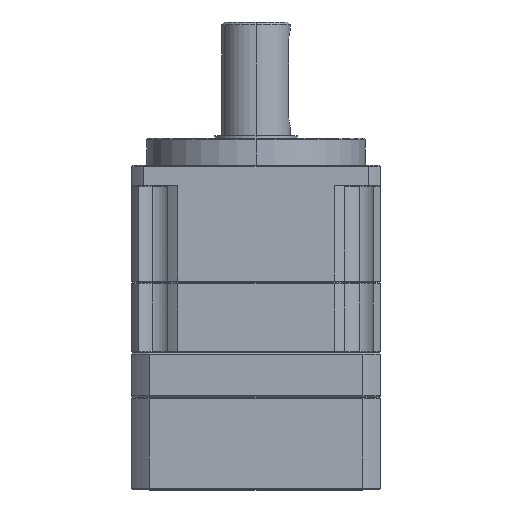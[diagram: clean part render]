
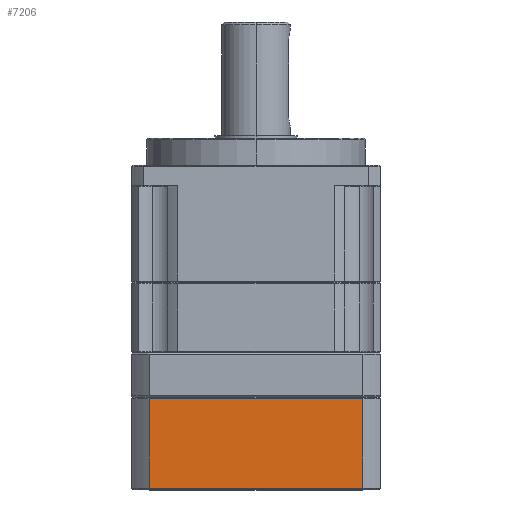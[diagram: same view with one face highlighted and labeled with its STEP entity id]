
A CAD part, top view. The second image highlights one B-rep face of the part: STEP entity #7206.
In plain terms, the highlighted planar face has unit normal (0, 0, 1).
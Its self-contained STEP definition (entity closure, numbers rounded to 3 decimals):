
#123 = FACE_OUTER_BOUND ( 'NONE', #5000, .T. ) ;
#259 = CARTESIAN_POINT ( 'NONE',  ( -78.224, -184., 91. ) ) ;
#260 = DIRECTION ( 'NONE',  ( 0., 1., 0. ) ) ;
#261 = CARTESIAN_POINT ( 'NONE',  ( 78.224, -150.5, 91. ) ) ;
#262 = DIRECTION ( 'NONE',  ( 1., 0., 0. ) ) ;
#263 = DIRECTION ( 'NONE',  ( 0., -1., 0. ) ) ;
#264 = CARTESIAN_POINT ( 'NONE',  ( 91., -85., 91. ) ) ;
#265 = DIRECTION ( 'NONE',  ( -1., 0., 0. ) ) ;
#535 = CARTESIAN_POINT ( 'NONE',  ( 91., -151.5, 91. ) ) ;
#538 = PLANE ( 'NONE',  #2432 ) ;
#540 = DIRECTION ( 'NONE',  ( 0., 0., -1. ) ) ;
#541 = DIRECTION ( 'NONE',  ( -1., 0., 0. ) ) ;
#2432 = AXIS2_PLACEMENT_3D ( 'NONE', #535, #540, #541 ) ;
#2619 = VERTEX_POINT ( 'NONE', #7715 ) ;
#2702 = VERTEX_POINT ( 'NONE', #3503 ) ;
#2703 = VERTEX_POINT ( 'NONE', #3504 ) ;
#2705 = VERTEX_POINT ( 'NONE', #3506 ) ;
#3503 = CARTESIAN_POINT ( 'NONE',  ( 78.224, -150.5, 91. ) ) ;
#3504 = CARTESIAN_POINT ( 'NONE',  ( 78.224, -85., 91. ) ) ;
#3506 = CARTESIAN_POINT ( 'NONE',  ( -78.224, -85., 91. ) ) ;
#3820 = EDGE_CURVE ( 'NONE', #2619, #2705, #6434, .T. ) ;
#3821 = EDGE_CURVE ( 'NONE', #2619, #2702, #6436, .T. ) ;
#3822 = EDGE_CURVE ( 'NONE', #2703, #2702, #6430, .T. ) ;
#3823 = EDGE_CURVE ( 'NONE', #2703, #2705, #6440, .T. ) ;
#4840 = ORIENTED_EDGE ( 'NONE', *, *, #3820, .F. ) ;
#4841 = ORIENTED_EDGE ( 'NONE', *, *, #3821, .T. ) ;
#4842 = ORIENTED_EDGE ( 'NONE', *, *, #3822, .F. ) ;
#4843 = ORIENTED_EDGE ( 'NONE', *, *, #3823, .T. ) ;
#5000 = EDGE_LOOP ( 'NONE', ( #4840, #4841, #4842, #4843 ) ) ;
#6430 = LINE ( 'NONE', #8058, #6441 ) ;
#6434 = LINE ( 'NONE', #259, #6437 ) ;
#6436 = LINE ( 'NONE', #261, #6439 ) ;
#6437 = VECTOR ( 'NONE', #260, 1000. ) ;
#6439 = VECTOR ( 'NONE', #262, 1000. ) ;
#6440 = LINE ( 'NONE', #264, #6443 ) ;
#6441 = VECTOR ( 'NONE', #263, 1000. ) ;
#6443 = VECTOR ( 'NONE', #265, 1000. ) ;
#7206 = ADVANCED_FACE ( 'NONE', ( #123 ), #538, .F. ) ;
#7715 = CARTESIAN_POINT ( 'NONE',  ( -78.224, -150.5, 91. ) ) ;
#8058 = CARTESIAN_POINT ( 'NONE',  ( 78.224, -184., 91. ) ) ;
